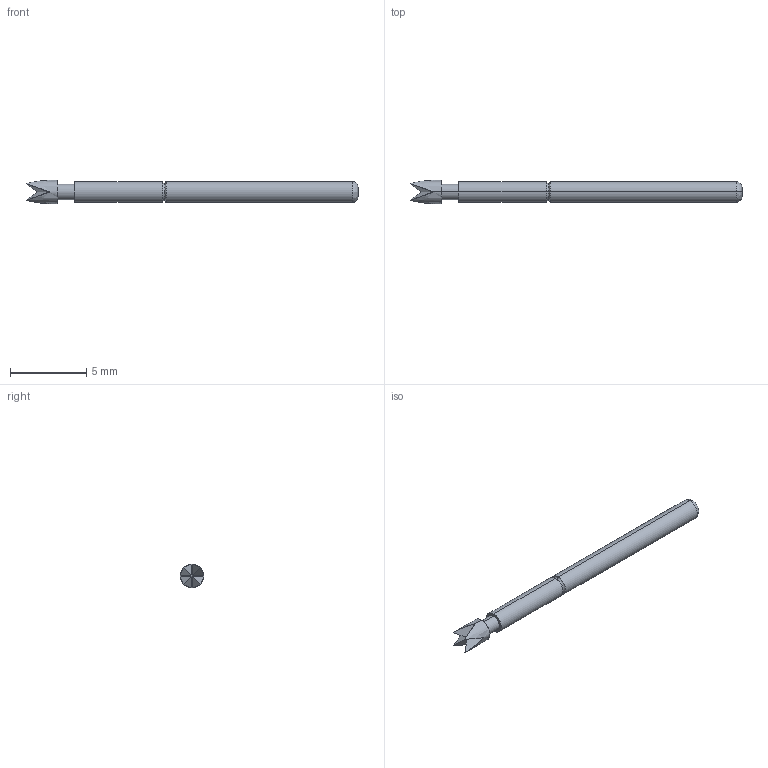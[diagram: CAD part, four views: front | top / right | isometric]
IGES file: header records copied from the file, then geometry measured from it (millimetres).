
Start section: SolidWorks IGES file using analytic representation for surfaces
Global section: file name: O:\PYLON\IGES FILES\P3158\P3158G-1Q1S REC'D.IGS; native system: SolidWorks 2015; preprocessor: SolidWorks 2015; author: kgolden; date: 171020.064106; units: inch
Bounding box: 21.74 x 1.52 x 1.52 mm (x, y, z)
Surface area: 102.9 mm2 (no closed solid volume)
Topology: 0 solids, 0 shells, 31 faces, 230 edges, 230 vertices
Faces by surface type: bspline 21, revolution 10
